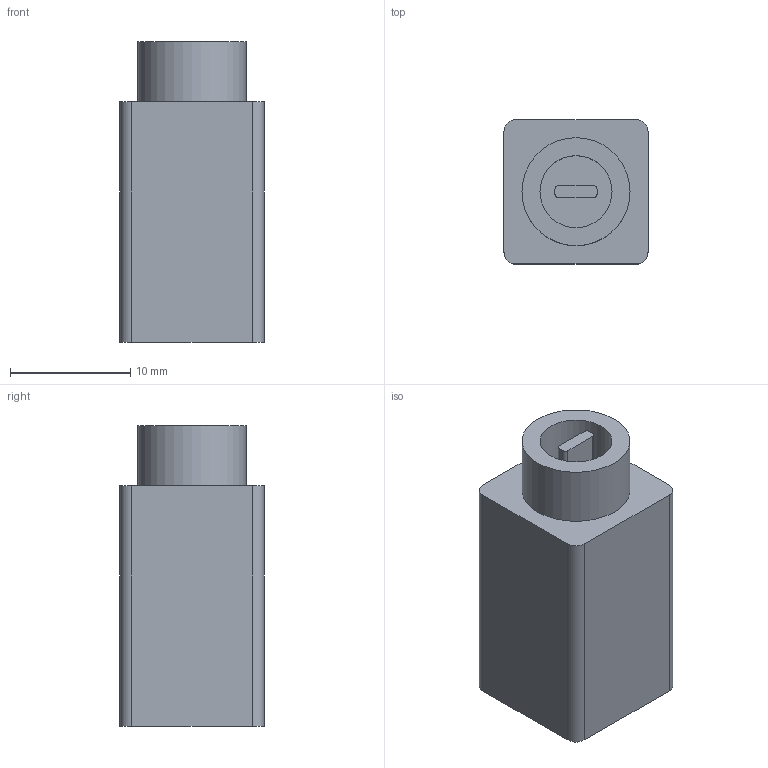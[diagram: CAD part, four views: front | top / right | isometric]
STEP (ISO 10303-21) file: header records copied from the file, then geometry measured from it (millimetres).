
FILE_DESCRIPTION(('FreeCAD Model'),'2;1');
FILE_NAME('Open CASCADE Shape Model','2024-10-28T16:21:41',('Author'),( ''),'Open CASCADE STEP processor 7.6','FreeCAD','Unknown');
FILE_SCHEMA(('AUTOMOTIVE_DESIGN { 1 0 10303 214 1 1 1 1 }'));
Length unit declared in the file: millimetre
Products named in the file (1): Pad002
Bounding box: 12 x 12 x 25 mm (x, y, z)
Volume: 3056.7 mm3; surface area: 1490 mm2
Topology: 1 solids, 1 shells, 23 faces, 54 edges, 36 vertices
Faces by surface type: plane 13, cylinder 10
Full cylindrical faces by diameter (mm): 6 x1, 9 x1
Entity records: 690 total; most frequent: DIRECTION 122, CARTESIAN_POINT 114, ORIENTED_EDGE 108, EDGE_CURVE 54, AXIS2_PLACEMENT_3D 44, VERTEX_POINT 36, LINE 34, VECTOR 34
